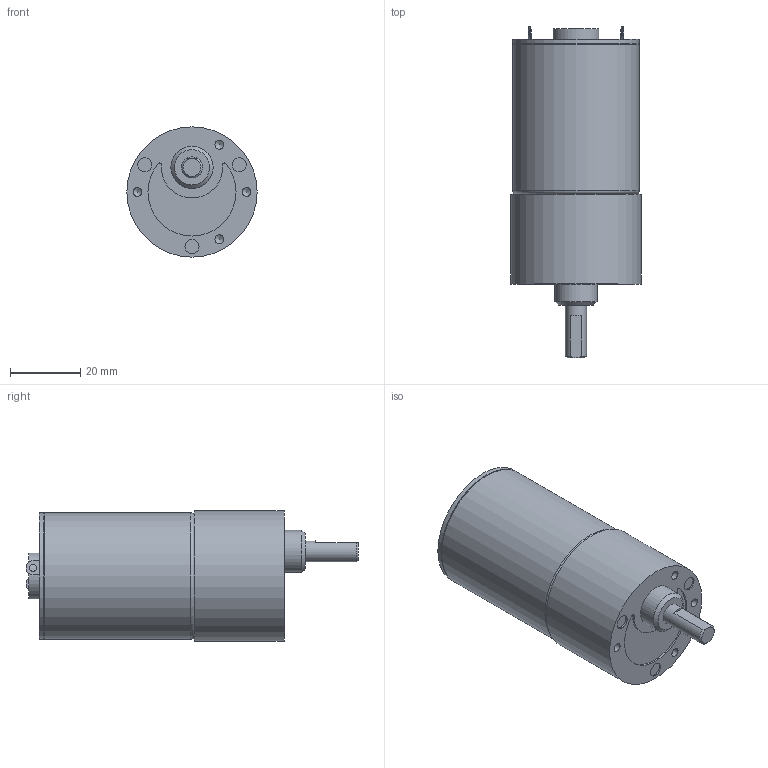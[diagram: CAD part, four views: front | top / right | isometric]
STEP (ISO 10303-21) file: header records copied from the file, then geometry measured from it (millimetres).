
FILE_DESCRIPTION((''),'2;1');
FILE_NAME('C:\Documents and Settings\SSEGAWA\デスクトップ\TP-3644D-KG-4.STP','2013-07-25T17:14:03',('SSEGAWA'),(''),'Autodesk Inventor 2010','Autodesk Inventor 2010','');
FILE_SCHEMA(('CONFIG_CONTROL_DESIGN'));
Length unit declared in the file: millimetre
Products named in the file (1): tp_3644dh_kg-4_Shrinkwrap_1
Bounding box: 37 x 94.3 x 37 mm (x, y, z)
Volume: 73356.4 mm3; surface area: 11235 mm2
Topology: 1 solids, 4 shells, 64 faces, 136 edges, 91 vertices
Faces by surface type: plane 27, cylinder 18, bspline 16, cone 2, torus 1
Full cylindrical faces by diameter (mm): 3 x1, 3.5 x1, 4 x3, 6 x1, 12 x1, 13 x1, 35.6 x1, 36 x2, 37 x1
Entity records: 1730 total; most frequent: CARTESIAN_POINT 500, DIRECTION 241, ORIENTED_EDGE 174, EDGE_LOOP 109, AXIS2_PLACEMENT_3D 107, EDGE_CURVE 87, VERTEX_POINT 72, STYLED_ITEM 65
